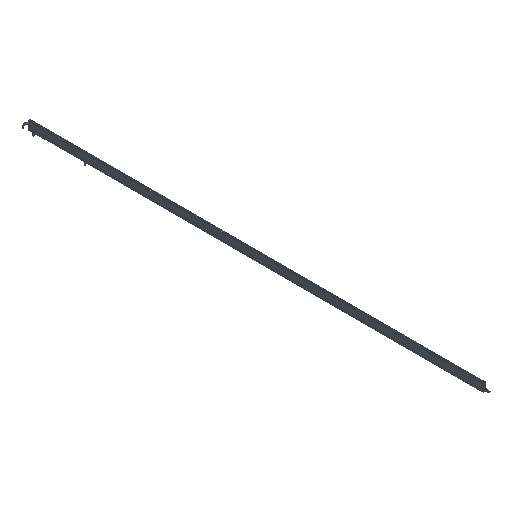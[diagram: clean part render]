
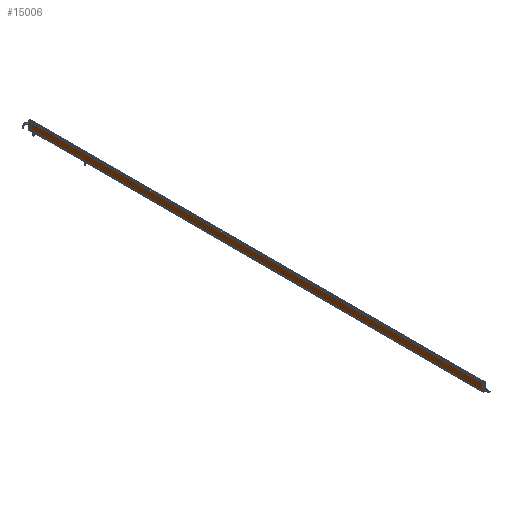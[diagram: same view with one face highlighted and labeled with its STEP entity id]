
A CAD part, isometric view. The second image highlights one B-rep face of the part: STEP entity #15006.
In plain terms, the highlighted planar face has unit normal (-1, 0, 0).
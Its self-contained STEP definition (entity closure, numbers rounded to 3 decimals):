
#239 = CARTESIAN_POINT ( 'NONE',  ( -9., 0., 0.5 ) ) ;
#2895 = CARTESIAN_POINT ( 'NONE',  ( -9., 1765., 28.5 ) ) ;
#2912 = CARTESIAN_POINT ( 'NONE',  ( -9., 1765., 28.5 ) ) ;
#3438 = CARTESIAN_POINT ( 'NONE',  ( -9., 1765., 0.5 ) ) ;
#3474 = ORIENTED_EDGE ( 'NONE', *, *, #18459, .F. ) ;
#3494 = EDGE_CURVE ( 'NONE', #4176, #5172, #17857, .T. ) ;
#3619 = CARTESIAN_POINT ( 'NONE',  ( -9., 0., 28.5 ) ) ;
#4176 = VERTEX_POINT ( 'NONE', #18127 ) ;
#4238 = LINE ( 'NONE', #16810, #6965 ) ;
#4492 = DIRECTION ( 'NONE',  ( 0., -1., 0. ) ) ;
#5172 = VERTEX_POINT ( 'NONE', #239 ) ;
#5843 = DIRECTION ( 'NONE',  ( 0., -1., 0. ) ) ;
#5901 = EDGE_LOOP ( 'NONE', ( #9318, #3474, #12844, #7656 ) ) ;
#5911 = AXIS2_PLACEMENT_3D ( 'NONE', #2912, #18599, #5843 ) ;
#6261 = EDGE_CURVE ( 'NONE', #15096, #4176, #19974, .T. ) ;
#6360 = VECTOR ( 'NONE', #16203, 1000. ) ;
#6965 = VECTOR ( 'NONE', #15275, 1000. ) ;
#7656 = ORIENTED_EDGE ( 'NONE', *, *, #3494, .T. ) ;
#7746 = CARTESIAN_POINT ( 'NONE',  ( -9., 1765., 28.5 ) ) ;
#9318 = ORIENTED_EDGE ( 'NONE', *, *, #9443, .F. ) ;
#9443 = EDGE_CURVE ( 'NONE', #14066, #5172, #4238, .T. ) ;
#9995 = VECTOR ( 'NONE', #4492, 1000. ) ;
#10019 = DIRECTION ( 'NONE',  ( 0., 0., -1. ) ) ;
#10479 = VECTOR ( 'NONE', #10019, 1000. ) ;
#12844 = ORIENTED_EDGE ( 'NONE', *, *, #6261, .T. ) ;
#14066 = VERTEX_POINT ( 'NONE', #3619 ) ;
#14256 = LINE ( 'NONE', #7746, #9995 ) ;
#15006 = ADVANCED_FACE ( 'NONE', ( #15573 ), #17053, .T. ) ;
#15096 = VERTEX_POINT ( 'NONE', #2895 ) ;
#15275 = DIRECTION ( 'NONE',  ( 0., 0., -1. ) ) ;
#15573 = FACE_OUTER_BOUND ( 'NONE', #5901, .T. ) ;
#16203 = DIRECTION ( 'NONE',  ( 0., -1., 0. ) ) ;
#16402 = CARTESIAN_POINT ( 'NONE',  ( -9., 1765., 28.5 ) ) ;
#16810 = CARTESIAN_POINT ( 'NONE',  ( -9., 0., 28.5 ) ) ;
#17053 = PLANE ( 'NONE',  #5911 ) ;
#17857 = LINE ( 'NONE', #3438, #6360 ) ;
#18127 = CARTESIAN_POINT ( 'NONE',  ( -9., 1765., 0.5 ) ) ;
#18459 = EDGE_CURVE ( 'NONE', #15096, #14066, #14256, .T. ) ;
#18599 = DIRECTION ( 'NONE',  ( -1., 0., 0. ) ) ;
#19974 = LINE ( 'NONE', #16402, #10479 ) ;
